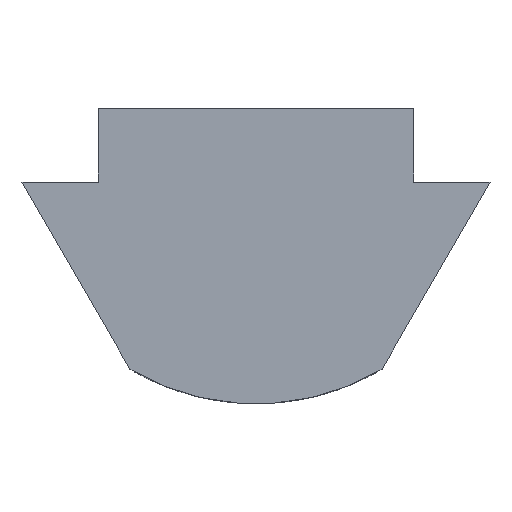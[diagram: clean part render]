
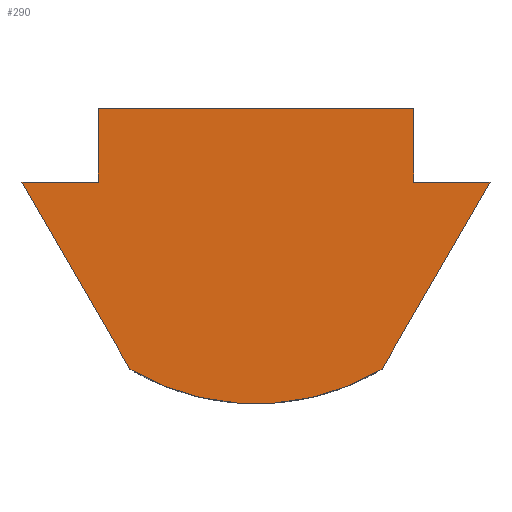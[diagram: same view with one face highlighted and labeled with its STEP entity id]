
A CAD part, front view. The second image highlights one B-rep face of the part: STEP entity #290.
In plain terms, the highlighted planar face has unit normal (0, -1, 0).
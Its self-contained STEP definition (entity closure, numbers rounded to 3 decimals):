
#25=CIRCLE('',#306,5.);
#60=ORIENTED_EDGE('',*,*,#80,.F.);
#61=ORIENTED_EDGE('',*,*,#103,.F.);
#62=ORIENTED_EDGE('',*,*,#100,.F.);
#63=ORIENTED_EDGE('',*,*,#97,.F.);
#64=ORIENTED_EDGE('',*,*,#93,.F.);
#65=ORIENTED_EDGE('',*,*,#90,.F.);
#66=ORIENTED_EDGE('',*,*,#87,.F.);
#67=ORIENTED_EDGE('',*,*,#84,.F.);
#80=EDGE_CURVE('',#106,#107,#124,.T.);
#84=EDGE_CURVE('',#107,#110,#127,.T.);
#87=EDGE_CURVE('',#110,#112,#130,.T.);
#90=EDGE_CURVE('',#112,#114,#133,.T.);
#93=EDGE_CURVE('',#114,#116,#136,.T.);
#97=EDGE_CURVE('',#116,#119,#25,.T.);
#100=EDGE_CURVE('',#119,#121,#140,.T.);
#103=EDGE_CURVE('',#121,#106,#143,.T.);
#106=VERTEX_POINT('',#370);
#107=VERTEX_POINT('',#372);
#110=VERTEX_POINT('',#380);
#112=VERTEX_POINT('',#386);
#114=VERTEX_POINT('',#392);
#116=VERTEX_POINT('',#398);
#119=VERTEX_POINT('',#424);
#121=VERTEX_POINT('',#430);
#124=LINE('',#371,#146);
#127=LINE('',#379,#149);
#130=LINE('',#385,#152);
#133=LINE('',#391,#155);
#136=LINE('',#397,#158);
#140=LINE('',#429,#162);
#143=LINE('',#434,#165);
#146=VECTOR('',#318,1000.);
#149=VECTOR('',#325,1000.);
#152=VECTOR('',#330,1000.);
#155=VECTOR('',#335,1000.);
#158=VECTOR('',#340,1000.);
#162=VECTOR('',#352,1000.);
#165=VECTOR('',#357,1000.);
#176=EDGE_LOOP('',(#60,#61,#62,#63,#64,#65,#66,#67));
#190=FACE_BOUND('',#176,.T.);
#201=PLANE('',#309);
#290=ADVANCED_FACE('',(#190),#201,.F.);
#306=AXIS2_PLACEMENT_3D('',#423,#346,#347);
#309=AXIS2_PLACEMENT_3D('',#435,#358,#359);
#318=DIRECTION('',(0.,0.,1.));
#325=DIRECTION('',(1.,0.,0.));
#330=DIRECTION('',(0.,0.,-1.));
#335=DIRECTION('',(1.,0.,0.));
#340=DIRECTION('',(-0.5,0.,-0.866));
#346=DIRECTION('',(0.,1.,0.));
#347=DIRECTION('',(1.,0.,0.));
#352=DIRECTION('',(-0.5,0.,0.866));
#357=DIRECTION('',(1.,0.,0.));
#358=DIRECTION('',(0.,1.,0.));
#359=DIRECTION('',(0.,0.,1.));
#370=CARTESIAN_POINT('',(-3.2,-7.5,-1.5));
#371=CARTESIAN_POINT('',(-3.2,-7.5,0.));
#372=CARTESIAN_POINT('',(-3.2,-7.5,0.));
#379=CARTESIAN_POINT('',(-3.2,-7.5,0.));
#380=CARTESIAN_POINT('',(3.2,-7.5,0.));
#385=CARTESIAN_POINT('',(3.2,-7.5,0.));
#386=CARTESIAN_POINT('',(3.2,-7.5,-1.5));
#391=CARTESIAN_POINT('',(3.2,-7.5,-1.5));
#392=CARTESIAN_POINT('',(4.75,-7.5,-1.5));
#397=CARTESIAN_POINT('',(4.75,-7.5,-1.5));
#398=CARTESIAN_POINT('',(2.558,-7.5,-5.296));
#423=CARTESIAN_POINT('',(0.,-7.5,-1.));
#424=CARTESIAN_POINT('',(-2.558,-7.5,-5.296));
#429=CARTESIAN_POINT('',(-4.75,-7.5,-1.5));
#430=CARTESIAN_POINT('',(-4.75,-7.5,-1.5));
#434=CARTESIAN_POINT('',(-3.2,-7.5,-1.5));
#435=CARTESIAN_POINT('',(0.,-7.5,-1.));
